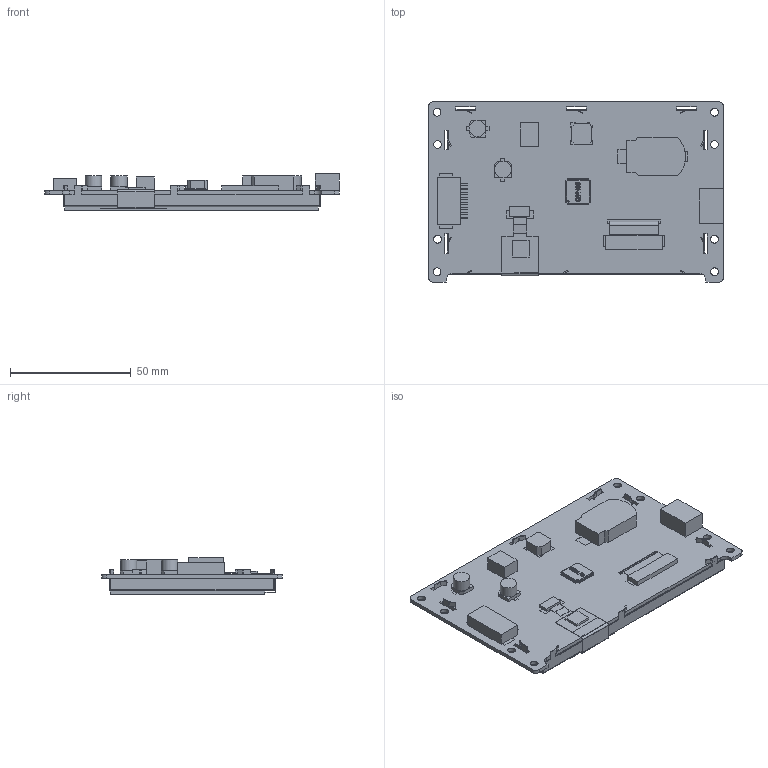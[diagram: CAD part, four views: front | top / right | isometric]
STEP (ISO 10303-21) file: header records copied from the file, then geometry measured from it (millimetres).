
FILE_DESCRIPTION(/* description */ (''),/* implementation_level */ '2;1');
FILE_NAME(/* name */ '',/* time_stamp */ '2023-07-26T18:32:52+08:00',/* author */ (''),/* organization */ (''),/* preprocessor_version */ 'ST-DEVELOPER v11',/* originating_system */ 'SIEMENS PLM Software NX 7.5',/* authorisation */ '');
FILE_SCHEMA (('AP203_CONFIGURATION_CONTROLLED_3D_DESIGN_OF_MECHANICAL_PARTS_AND_ASSEMBLIES_MIM_LF'));
Length unit declared in the file: millimetre
Products named in the file (1): 3D-SDWb043U74C_stp
Bounding box: 121.9 x 74.7 x 15.22 mm (x, y, z)
Volume: 30431.5 mm3; surface area: 46594.1 mm2
Topology: 21 solids, 21 shells, 1503 faces, 4287 edges, 2840 vertices
Faces by surface type: plane 1298, cylinder 198, bspline 7
Full cylindrical faces by diameter (mm): 3.2 x8, 6.776 x2
Entity records: 50887 total; most frequent: CARTESIAN_POINT 9052, ORIENTED_EDGE 8550, DIRECTION 7579, EDGE_CURVE 4275, LINE 3837, VECTOR 3837, VERTEX_POINT 2838, AXIS2_PLACEMENT_3D 1871
